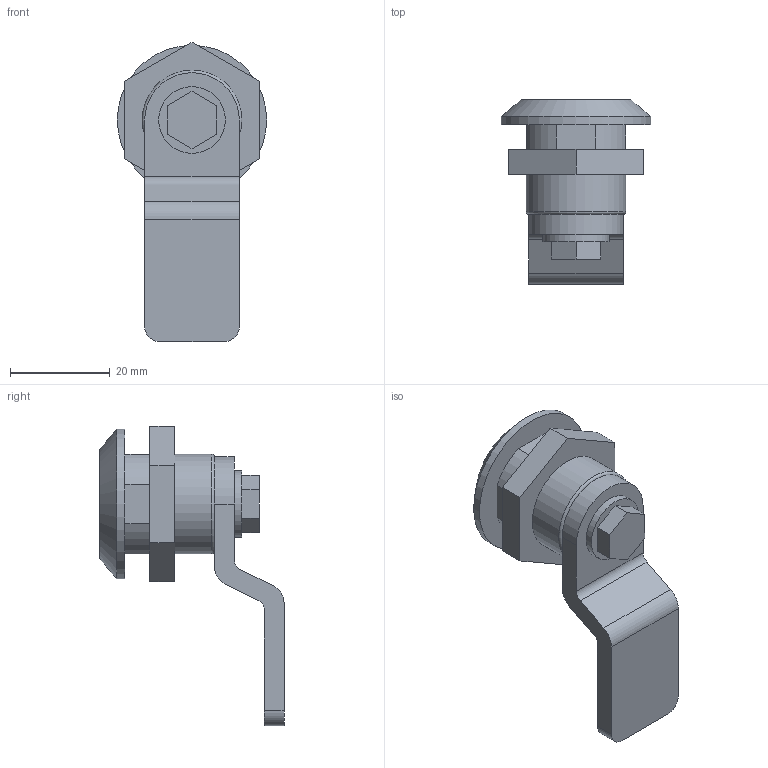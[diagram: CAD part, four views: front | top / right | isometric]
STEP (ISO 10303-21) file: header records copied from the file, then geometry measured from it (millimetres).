
FILE_DESCRIPTION (( 'STEP AP214' ), '1' );
FILE_NAME ('F30228.step', '2024-12-03T16:16:28', ( '' ), ( '' ), 'SwSTEP 2.0', 'SolidWorks 2023', '' );
FILE_SCHEMA (( 'AUTOMOTIVE_DESIGN' ));
Length unit declared in the file: millimetre
Products named in the file (1): F30228
Bounding box: 30 x 37 x 60.09 mm (x, y, z)
Volume: 14672.4 mm3; surface area: 6162.5 mm2
Topology: 1 solids, 1 shells, 69 faces, 176 edges, 116 vertices
Faces by surface type: plane 49, cylinder 18, cone 1, torus 1
Full cylindrical faces by diameter (mm): 13.4 x1, 20 x1, 30 x1
Entity records: 2065 total; most frequent: CARTESIAN_POINT 355, DIRECTION 348, ORIENTED_EDGE 340, EDGE_CURVE 170, LINE 132, VECTOR 132, VERTEX_POINT 115, AXIS2_PLACEMENT_3D 108
